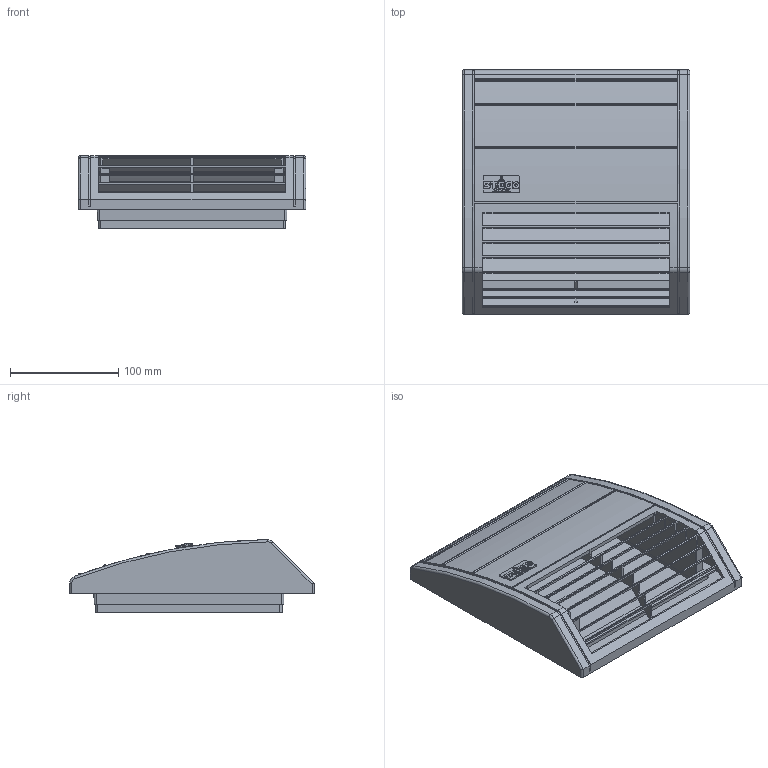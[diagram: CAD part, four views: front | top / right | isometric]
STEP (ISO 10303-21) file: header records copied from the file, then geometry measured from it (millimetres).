
FILE_DESCRIPTION (( 'STEP AP214' ), '1' );
FILE_NAME ('2014_09_EF118_176mm_3D_001.STEP', '2014-09-12T07:40:00', ( '' ), ( '' ), 'SwSTEP 2.0', 'SolidWorks 2014', '' );
FILE_SCHEMA (( 'AUTOMOTIVE_DESIGN' ));
Length unit declared in the file: millimetre
Products named in the file (1): 2014_09_EF118_176mm_3D_001
Bounding box: 210 x 225.7 x 66.95 mm (x, y, z)
Surface area: 299749.5 mm2 (no closed solid volume)
Topology: 0 solids, 8 shells, 351 faces, 1357 edges, 927 vertices
Faces by surface type: plane 255, cylinder 47, bspline 37, cone 6, torus 6
Entity records: 18061 total; most frequent: CARTESIAN_POINT 3174, ORIENTED_EDGE 2284, DIRECTION 2056, EDGE_CURVE 1357, LINE 1090, VECTOR 1090, VERTEX_POINT 927, AXIS2_PLACEMENT_3D 483
